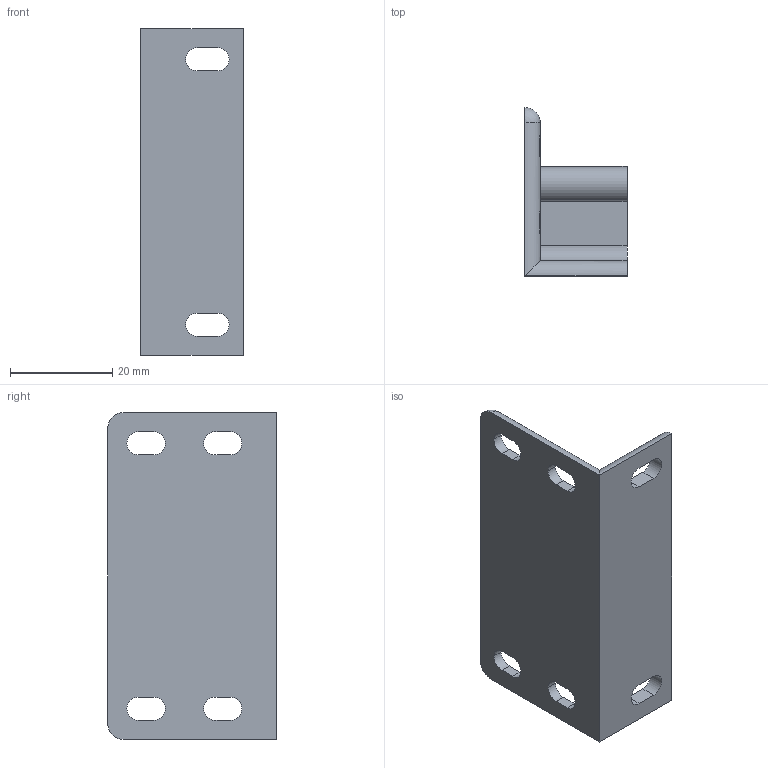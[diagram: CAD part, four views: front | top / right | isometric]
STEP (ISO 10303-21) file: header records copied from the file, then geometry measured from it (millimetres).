
FILE_DESCRIPTION (( 'STEP AP214' ), '1' );
FILE_NAME ('L19170-verrou_porte.step', '2024-12-03T16:23:30', ( '' ), ( '' ), 'SwSTEP 2.0', 'SolidWorks 2023', '' );
FILE_SCHEMA (( 'AUTOMOTIVE_DESIGN' ));
Length unit declared in the file: millimetre
Products named in the file (1): L19170-verrou_porte
Bounding box: 20 x 33 x 64 mm (x, y, z)
Volume: 9892.9 mm3; surface area: 7530.1 mm2
Topology: 1 solids, 1 shells, 76 faces, 218 edges, 142 vertices
Faces by surface type: cylinder 40, plane 34, sphere 2
Entity records: 2863 total; most frequent: CARTESIAN_POINT 791, DIRECTION 434, ORIENTED_EDGE 432, EDGE_CURVE 216, AXIS2_PLACEMENT_3D 155, VERTEX_POINT 142, VECTOR 124, LINE 124
